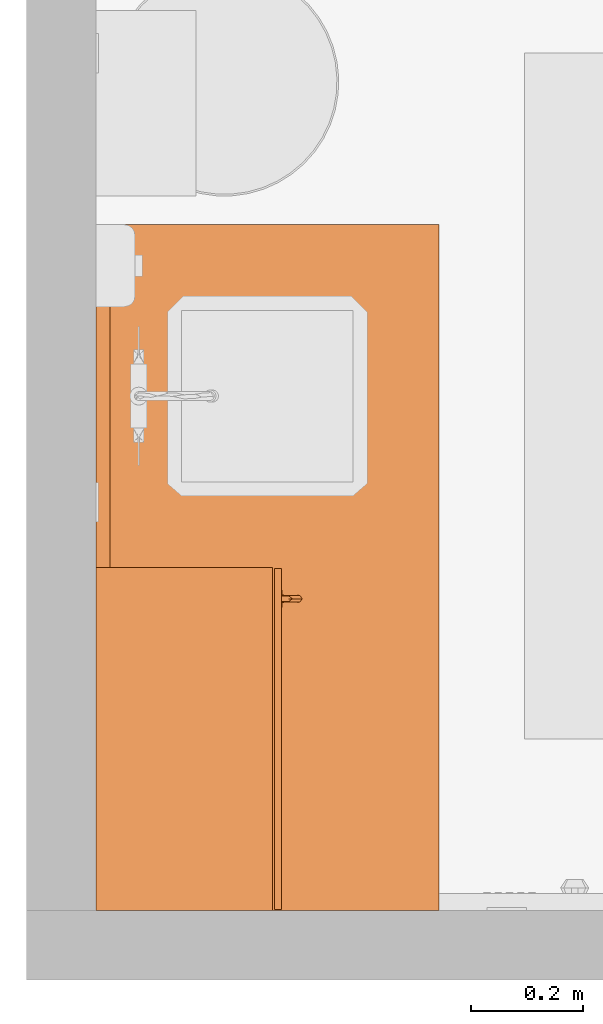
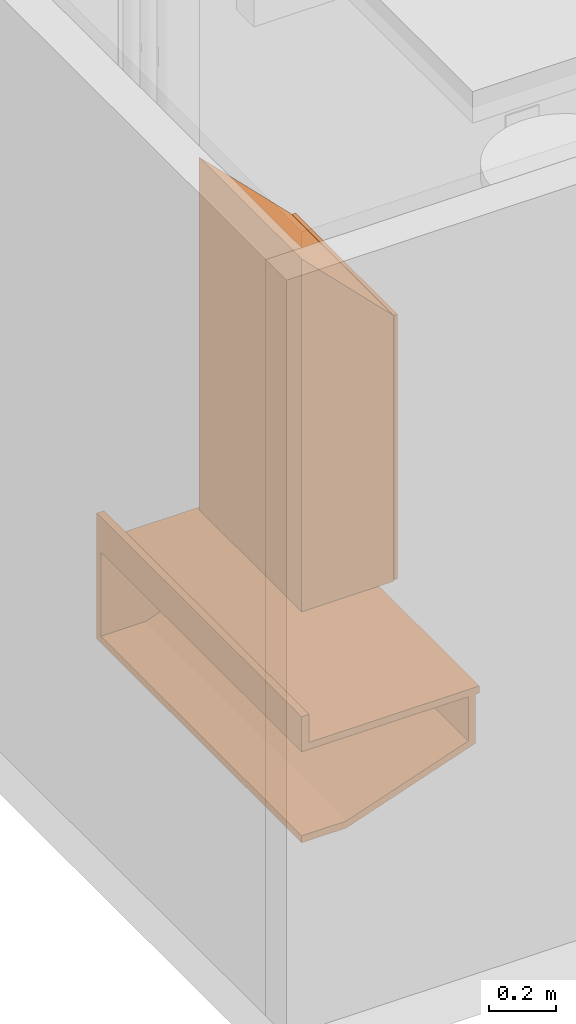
# One storey, part 7 of 10: 2 proxies.
"""IFC2X3 building model written with IfcOpenShell, lengths in feet."""

import ifcopenshell
import ifcopenshell.guid

model = None  # the IFC model being written
_history = None  # IfcOwnerHistory: only IFC2X3 demands one
_inside = {}  # id of a spatial element -> (the spatial element, [elements in it])
_under = {}  # id of a project, library or spatial element -> (it, [spatial elements below it])
_declared = {}  # id of a project -> (the project, [libraries it declares])
_typed = {}  # id of a type object -> (the type object, [elements of that type])
_made_of = {}  # id of a material, layer set ... -> (it, [elements and type objects made of it])


def new_model(schema):
    """Start an empty IFC model of exactly this schema.

    Asked for "IFC4X3", IfcOpenShell would pick the latest addendum, in which some entities
    have other attributes; the version numbers below select the first issue.
    IFC2X3 requires an IfcOwnerHistory on every rooted entity: one is made here for all.
    """
    global model, _history
    if schema == "IFC4X3":
        model = ifcopenshell.file(schema_version=(4, 3, 0, 0))
    else:
        model = ifcopenshell.file(schema=schema)
    _inside.clear()
    _under.clear()
    _declared.clear()
    _typed.clear()
    _made_of.clear()
    _history = None
    if model.schema == "IFC2X3":
        org = make("IfcOrganization", Name="unknown")
        user = make(
            "IfcPersonAndOrganization",
            ThePerson=make("IfcPerson", FamilyName="unknown"),
            TheOrganization=org,
        )
        app = make(
            "IfcApplication",
            ApplicationDeveloper=org,
            Version="unknown",
            ApplicationFullName="unknown",
            ApplicationIdentifier="unknown",
        )
        _history = make(
            "IfcOwnerHistory",
            OwningUser=user,
            OwningApplication=app,
            ChangeAction="ADDED",
            CreationDate=0,
        )
    return model


def make(cls, **values):
    """One entity of the class cls with the attributes given. An attribute that is None is left unset."""
    return model.create_entity(
        cls, **{name: value for name, value in values.items() if value is not None}
    )


def entity(cls, *values):
    """Any entity or typed value of the class cls, its attributes in the order of the schema. None: left unset."""
    e = model.create_entity(cls)
    for i, value in enumerate(values):
        if value is not None:
            e[i] = value
    return e


def rooted(cls, **values):
    """An entity with a GlobalId (a new one), such as an element, a storey or a relation."""
    return make(cls, GlobalId=ifcopenshell.guid.new(), OwnerHistory=_history, **values)


def si_unit(unit_type, name, prefix=None):
    """IfcSIUnit, for example si_unit("LENGTHUNIT", "METRE", prefix="MILLI")."""
    return make("IfcSIUnit", UnitType=unit_type, Prefix=prefix, Name=name)


def converted_unit(unit_type, name, factor, base, dimensions=None, offset=None):
    """IfcConversionBasedUnit, such as the inch: factor (a typed value) times the base unit."""
    return make(
        "IfcConversionBasedUnit"
        if offset is None
        else "IfcConversionBasedUnitWithOffset",
        ConversionOffset=offset,
        Dimensions=None
        if dimensions is None
        else entity("IfcDimensionalExponents", *dimensions),
        UnitType=unit_type,
        Name=name,
        ConversionFactor=make(
            "IfcMeasureWithUnit", ValueComponent=factor, UnitComponent=base
        ),
    )


def derived_unit(unit_type, elements):
    """IfcDerivedUnit: a product of units, each with its exponent."""
    return make(
        "IfcDerivedUnit",
        Elements=[
            make("IfcDerivedUnitElement", Unit=unit, Exponent=power)
            for unit, power in elements
        ],
        UnitType=unit_type,
    )


def assignment(units):
    """IfcUnitAssignment: the units of a project."""
    return None if units is None else make("IfcUnitAssignment", Units=units)


def point(xyz):
    """IfcCartesianPoint."""
    return None if xyz is None else make("IfcCartesianPoint", Coordinates=xyz)


def direction(xyz):
    """IfcDirection."""
    return None if xyz is None else make("IfcDirection", DirectionRatios=xyz)


def frame(location, z_axis=None, x_axis=None):
    """IfcAxis2Placement3D, a coordinate frame: its origin and axes. An axis left out is left unset."""
    return make(
        "IfcAxis2Placement3D",
        Location=point(location),
        Axis=direction(z_axis),
        RefDirection=direction(x_axis),
    )


def origin():
    """The frame at (0, 0, 0) with its axes left unset."""
    return frame((0.0, 0.0, 0.0))


def place(relative_to, where):
    """IfcLocalPlacement: puts the frame where relative to a parent placement (None: the world)."""
    return make(
        "IfcLocalPlacement", PlacementRelTo=relative_to, RelativePlacement=where
    )


def context(
    kind, dimensions, precision=None, world=None, true_north=None, identifier=None
):
    """IfcGeometricRepresentationContext, for example the 3D "Model" context."""
    return make(
        "IfcGeometricRepresentationContext",
        ContextIdentifier=identifier,
        ContextType=kind,
        CoordinateSpaceDimension=dimensions,
        Precision=precision,
        WorldCoordinateSystem=world,
        TrueNorth=true_north,
    )


def subcontext(parent, identifier, kind, view, scale=None):
    """IfcGeometricRepresentationSubContext, for example "Body" below "Model"."""
    return make(
        "IfcGeometricRepresentationSubContext",
        ContextIdentifier=identifier,
        ContextType=kind,
        ParentContext=parent,
        TargetScale=scale,
        TargetView=view,
    )


def project(units=None, contexts=None):
    """IfcProject with its units and contexts."""
    return rooted(
        "IfcProject",
        Name="project",
        RepresentationContexts=contexts,
        UnitsInContext=assignment(units),
    )


def spatial(cls, under=None, at=None, **own):
    """A site, building, storey or space (cls), placed at a placement, below another one or the project."""
    s = rooted(cls, ObjectPlacement=at, **own)
    if under is not None:
        _under.setdefault(under.id(), (under, []))[1].append(s)
    return s


def faces_of(points, faces, orient=None, outer=None):
    """IfcFace entities. A face is a list of loops; a loop is a list of indices into points, from 0.

    orient and outer hold one flag for each loop. By default every Orientation is true, the
    first loop of a face is its IfcFaceOuterBound and the others are IfcFaceBound.
    """
    made = []
    for i, loops in enumerate(faces):
        bounds = []
        for j, loop in enumerate(loops):
            is_outer = j == 0 if outer is None else outer[i][j]
            bounds.append(
                make(
                    "IfcFaceOuterBound" if is_outer else "IfcFaceBound",
                    Bound=make("IfcPolyLoop", Polygon=[points[k] for k in loop]),
                    Orientation=True if orient is None else orient[i][j],
                )
            )
        made.append(make("IfcFace", Bounds=bounds))
    return made


def faceted_brep(points, faces, orient=None, outer=None, voids=None):
    """IfcFacetedBrep: a solid bounded by flat faces; with voids (closed shells), ...WithVoids."""
    shared = [point(p) for p in points]
    hull = make("IfcClosedShell", CfsFaces=faces_of(shared, faces, orient, outer))
    if voids is None:
        return make("IfcFacetedBrep", Outer=hull)
    return make(
        "IfcFacetedBrepWithVoids",
        Outer=hull,
        Voids=[
            make(cls, CfsFaces=faces_of(shared, fs, o, b)) for cls, fs, o, b in voids
        ],
    )


def shape(context_of_items, identifier, shape_type, items):
    """IfcShapeRepresentation: the items that make up one representation, for example the "Body"."""
    return make(
        "IfcShapeRepresentation",
        ContextOfItems=context_of_items,
        RepresentationIdentifier=identifier,
        RepresentationType=shape_type,
        Items=items,
    )


def source(mapping_origin, context_of_items, identifier, shape_type, items):
    """IfcRepresentationMap: a shape defined once, which mapped items show again and again."""
    return make(
        "IfcRepresentationMap",
        MappingOrigin=mapping_origin,
        MappedRepresentation=shape(context_of_items, identifier, shape_type, items),
    )


def transform(
    local_origin,
    x_axis=None,
    y_axis=None,
    z_axis=None,
    scale=None,
    scale2=None,
    scale3=None,
    uniform=True,
):
    """IfcCartesianTransformationOperator3D, or its non-uniform kind. x_axis, y_axis, z_axis: its Axis1, 2, 3."""
    if uniform:
        return make(
            "IfcCartesianTransformationOperator3D",
            Axis1=direction(x_axis),
            Axis2=direction(y_axis),
            LocalOrigin=point(local_origin),
            Scale=scale,
            Axis3=direction(z_axis),
        )
    return make(
        "IfcCartesianTransformationOperator3DnonUniform",
        Axis1=direction(x_axis),
        Axis2=direction(y_axis),
        LocalOrigin=point(local_origin),
        Scale=scale,
        Axis3=direction(z_axis),
        Scale2=scale2,
        Scale3=scale3,
    )


def mapped(mapping_source, mapping_target):
    """IfcMappedItem: shows the shape of a source again, moved by a transform."""
    return make(
        "IfcMappedItem", MappingSource=mapping_source, MappingTarget=mapping_target
    )


def made_of(thing, what):
    """Note that an element or type object is made of a material, layer set ...; save() writes the relation."""
    if what is not None:
        _made_of.setdefault(what.id(), (what, []))[1].append(thing)
    return thing


def type_object(cls, material=None, **own):
    """A type object (cls), such as IfcWallType, which elements share."""
    return made_of(rooted(cls, **own), material)


def type_shapes(of_type, sources):
    """Give a type object the sources (RepresentationMaps) that its elements show as mapped items."""
    of_type.RepresentationMaps = sources


def element(
    cls,
    number,
    at=None,
    inside=None,
    cuts=None,
    type_object=None,
    material=None,
    context=None,
    identifier="Body",
    shape_type=None,
    held_by="IfcProductDefinitionShape",
    body=None,
    shapes=None,
    **own,
):
    """One element of the class cls, such as IfcWall. Its Tag is "e" and its number.

    at: its placement. inside: the storey or other place that contains it. cuts: it is an
    opening in that element (IfcRelVoidsElement). A single representation is given by context,
    identifier, shape_type and body (its items); several are given by shapes. held_by: the class
    of the entity that holds the representations. save() writes the other relations.
    """
    e = rooted(cls, Tag="e%d" % number, ObjectPlacement=at, **own)
    if body is not None:
        shapes = [shape(context, identifier, shape_type, body)]
    if shapes is not None:
        e.Representation = make(held_by, Representations=shapes)
    if inside is not None:
        _inside.setdefault(inside.id(), (inside, []))[1].append(e)
    if cuts is not None:
        rooted(
            "IfcRelVoidsElement", RelatingBuildingElement=cuts, RelatedOpeningElement=e
        )
    if type_object is not None:
        _typed.setdefault(type_object.id(), (type_object, []))[1].append(e)
    return made_of(e, material)


def aggregate(whole, parts):
    """IfcRelAggregates: a whole, such as a stair, and the parts it consists of."""
    return rooted("IfcRelAggregates", RelatingObject=whole, RelatedObjects=parts)


def save(model, path):
    """Write the relations noted so far, then the file.

    IfcRelAggregates (storeys below a building ...), IfcRelContainedInSpatialStructure (elements
    in a storey), IfcRelDefinesByType, IfcRelAssociatesMaterial and IfcRelDeclares: one each for
    every whole, place, type object, material and project.
    """
    for whole, parts in _under.values():
        aggregate(whole, parts)
    for where, things in _inside.values():
        rooted(
            "IfcRelContainedInSpatialStructure",
            RelatedElements=things,
            RelatingStructure=where,
        )
    for kind, things in _typed.values():
        rooted("IfcRelDefinesByType", RelatedObjects=things, RelatingType=kind)
    for what, things in _made_of.values():
        rooted("IfcRelAssociatesMaterial", RelatedObjects=things, RelatingMaterial=what)
    for by, libraries in _declared.values():
        rooted("IfcRelDeclares", RelatingContext=by, RelatedDefinitions=libraries)
    model.write(path)


model = new_model("IFC2X3")

# Units and contexts
model_context = context("Model", 3, precision=0.0001, world=origin(), true_north=direction((6.12303176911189e-17, 1.0)))
body_context = subcontext(model_context, "Body", "Model", "MODEL_VIEW")
ifc_project = project(units=[converted_unit("LENGTHUNIT", "FOOT", entity("IfcRatioMeasure", 0.3048), si_unit("LENGTHUNIT", "METRE"), dimensions=[1, 0, 0, 0, 0, 0, 0]), converted_unit("AREAUNIT", "SQUARE FOOT", entity("IfcRatioMeasure", 0.09290304), si_unit("AREAUNIT", "SQUARE_METRE"), dimensions=[2, 0, 0, 0, 0, 0, 0]), converted_unit("VOLUMEUNIT", "CUBIC FOOT", entity("IfcRatioMeasure", 0.028316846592), si_unit("VOLUMEUNIT", "CUBIC_METRE"), dimensions=[3, 0, 0, 0, 0, 0, 0]), converted_unit("PLANEANGLEUNIT", "DEGREE", entity("IfcRatioMeasure", 0.0174532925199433), si_unit("PLANEANGLEUNIT", "RADIAN"), dimensions=[0, 0, 0, 0, 0, 0, 0]), si_unit("MASSUNIT", "GRAM", prefix="KILO"), derived_unit("MASSDENSITYUNIT", [(si_unit("MASSUNIT", "GRAM", prefix="KILO"), 1), (si_unit("LENGTHUNIT", "METRE"), -3)]), si_unit("TIMEUNIT", "SECOND"), si_unit("FREQUENCYUNIT", "HERTZ"), si_unit("THERMODYNAMICTEMPERATUREUNIT", "DEGREE_CELSIUS"), derived_unit("THERMALTRANSMITTANCEUNIT", [(si_unit("MASSUNIT", "GRAM", prefix="KILO"), 1), (si_unit("THERMODYNAMICTEMPERATUREUNIT", "KELVIN"), -1), (si_unit("TIMEUNIT", "SECOND"), -3)]), derived_unit("VOLUMETRICFLOWRATEUNIT", [(si_unit("LENGTHUNIT", "METRE"), 3), (si_unit("TIMEUNIT", "SECOND"), -1)]), si_unit("ELECTRICCURRENTUNIT", "AMPERE"), si_unit("ELECTRICVOLTAGEUNIT", "VOLT"), si_unit("POWERUNIT", "WATT"), si_unit("FORCEUNIT", "NEWTON"), si_unit("ILLUMINANCEUNIT", "LUX"), si_unit("LUMINOUSFLUXUNIT", "LUMEN"), si_unit("LUMINOUSINTENSITYUNIT", "CANDELA"), derived_unit("USERDEFINED", [(si_unit("MASSUNIT", "GRAM", prefix="KILO"), -1), (si_unit("LENGTHUNIT", "METRE"), -2), (si_unit("TIMEUNIT", "SECOND"), 3), (si_unit("LUMINOUSFLUXUNIT", "LUMEN"), 1)]), derived_unit("LINEARVELOCITYUNIT", [(si_unit("LENGTHUNIT", "METRE"), 1), (si_unit("TIMEUNIT", "SECOND"), -1)]), si_unit("PRESSUREUNIT", "PASCAL"), derived_unit("USERDEFINED", [(si_unit("LENGTHUNIT", "METRE"), -2), (si_unit("MASSUNIT", "GRAM", prefix="KILO"), 1), (si_unit("TIMEUNIT", "SECOND"), -2)])], contexts=[model_context])

# Site, building, storey, space
site_placement = place(None, origin())
site = spatial("IfcSite", under=ifc_project, at=site_placement, Name="Default", CompositionType="ELEMENT")
building_placement = place(site_placement, origin())
building = spatial("IfcBuilding", under=site, at=building_placement, Name="OUTPATIENT / PACT CLINIC (Ch. 265)", CompositionType="ELEMENT")
storey_placement = place(building_placement, origin())
storey = spatial("IfcBuildingStorey", under=building, at=storey_placement, Name="DATUM", CompositionType="ELEMENT", Elevation=0.0)
space_placement = place(storey_placement, origin())
space = spatial("IfcSpace", under=storey, at=space_placement, Name="WRTM3", CompositionType="ELEMENT", InteriorOrExteriorSpace="INTERNAL")

# Proxies
building_element_proxy_type_1 = type_object("IfcBuildingElementProxyType", Name="CT020 - Countertop, Solid Surface", PredefinedType="NOTDEFINED")
shared_shape_1 = source(origin(), body_context, "Body", "Brep", [
    faceted_brep([(-2.0, -0.874999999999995, 0.0), (-2.0, -0.874999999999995, -0.528571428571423), (-2.0, 0.500000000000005, -1.0), (-2.0, 1.0, -1.0), (-2.0, 1.0, -1.08333333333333), (-2.0, 0.500000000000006, -1.08333333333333), (-2.0, -0.958333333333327, -0.583333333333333), (-2.0, -0.958333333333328, 0.0), (1.91666666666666, -0.875000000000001, 0.0), (1.91666666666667, -0.875000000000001, -0.528571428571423), (2.0, -0.958333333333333, 0.0), (2.0, -0.958333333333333, -0.583333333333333), (2.0, 1.0, 0.0), (1.91666666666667, 1.0, 0.0), (1.91666666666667, 1.0, -1.0), (1.91666666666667, 0.499999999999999, -1.0), (2.0, 0.499999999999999, -1.08333333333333), (2.0, 1.0, -1.08333333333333)], [[[0, 1, 2, 3, 4, 5, 6, 7]], [[1, 0, 8, 9]], [[10, 7, 6, 11]], [[0, 7, 10, 12, 13, 8]], [[13, 14, 15, 9, 8]], [[12, 10, 11, 16, 17]], [[14, 13, 12, 17, 4, 3]], [[2, 1, 9, 15]], [[6, 5, 16, 11]], [[17, 16, 5, 4]], [[3, 2, 15, 14]]]),
    faceted_brep([(-2.0, 0.91666666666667, 0.416666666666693), (-2.0, 1.0, 0.416666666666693), (-2.0, 1.0, 0.0833333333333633), (-2.0, 0.91666666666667, 0.0833333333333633), (2.0, 0.916666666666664, 0.416666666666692), (2.0, 0.916666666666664, 0.0833333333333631), (2.0, 1.0, 0.0833333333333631), (2.0, 1.0, 0.416666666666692)], [[[0, 1, 2, 3]], [[4, 5, 6, 7]], [[1, 0, 4, 7]], [[2, 1, 7, 6]], [[3, 2, 6, 5]], [[0, 3, 5, 4]]]),
    faceted_brep([(2.0, 1.0, 0.0833333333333), (-2.0, 1.0, 0.0833333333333), (-2.0, -1.0, 0.0833333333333), (2.0, -1.0, 0.0833333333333), (2.0, 1.0, 0.0), (2.0, -1.0, 0.0), (-2.0, -1.0, 0.0), (-2.0, 1.0, 0.0)], [[[0, 1, 2, 3]], [[4, 5, 6, 7]], [[1, 0, 4, 7]], [[2, 1, 7, 6]], [[3, 2, 6, 5]], [[0, 3, 5, 4]]]),
    faceted_brep([(-2.0, 1.0, 0.0833333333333), (-2.0, 0.0, 0.0833333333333), (-2.0, -1.0, 0.0833333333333), (2.0, -1.0, 0.0833333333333), (2.0, 1.0, 0.0833333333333), (-2.0, 1.0, 0.0), (2.0, 1.0, 0.0), (2.0, -1.0, 0.0), (-2.0, -1.0, 0.0), (-2.0, 0.0, 0.0)], [[[0, 1, 2, 3, 4]], [[5, 6, 7, 8, 9]], [[1, 0, 5, 9]], [[2, 1, 9, 8]], [[3, 2, 8, 7]], [[4, 3, 7, 6]], [[0, 4, 6, 5]]]),
])
type_shapes(building_element_proxy_type_1, [shared_shape_1])
proxy_1_placement = place(space_placement, frame((237.266410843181, -857.855546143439, 3.0), z_axis=(0.0, 0.0, 1.0), x_axis=(0.0, 1.0, 0.0)))
element("IfcBuildingElementProxy", 1, at=proxy_1_placement, inside=space, type_object=building_element_proxy_type_1, Name="CT020 - Countertop, Solid Surface:CT020 - Countertop, Solid Surface", ObjectType="CT020 - Countertop, Solid Surface", context=body_context, shape_type="MappedRepresentation", body=[
    mapped(shared_shape_1, transform((0.0, 0.0, 0.0), scale=1.0)),
])
building_element_proxy_type_2 = type_object("IfcBuildingElementProxyType", Name="24\"H x 10 1/2\"D x 24\"W Key Alike", PredefinedType="NOTDEFINED")
shared_shape_2 = source(origin(), body_context, "Body", "Brep", [
    faceted_brep([(0.19651385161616, 1.08333333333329, 0.313846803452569), (0.190252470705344, 1.08333333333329, 0.319239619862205), (0.18229166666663, 1.08333333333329, 0.321375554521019), (0.174330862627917, 1.08333333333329, 0.319239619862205), (0.1680694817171, 1.08333333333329, 0.313846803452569), (0.163902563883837, 1.08333333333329, 0.306680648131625), (0.161774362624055, 1.08333333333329, 0.298665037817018), (0.161657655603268, 1.08333333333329, 0.290376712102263), (0.163634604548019, 1.08333333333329, 0.28232853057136), (0.167847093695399, 1.08333333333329, 0.275193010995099), (0.17427568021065, 1.08333333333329, 0.270002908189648), (0.18229166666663, 1.08333333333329, 0.268039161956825), (0.19030765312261, 1.08333333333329, 0.270002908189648), (0.196736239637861, 1.08333333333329, 0.275193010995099), (0.200948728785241, 1.08333333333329, 0.282328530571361), (0.202925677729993, 1.08333333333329, 0.290376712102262), (0.202808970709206, 1.08333333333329, 0.298665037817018), (0.200680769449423, 1.08333333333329, 0.306680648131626), (0.196736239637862, 1.0833333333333, 0.724181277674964), (0.19030765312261, 1.08333333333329, 0.729371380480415), (0.182291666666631, 1.08333333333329, 0.731335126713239), (0.174275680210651, 1.08333333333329, 0.729371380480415), (0.167847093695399, 1.0833333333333, 0.724181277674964), (0.163634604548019, 1.0833333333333, 0.717045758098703), (0.161657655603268, 1.0833333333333, 0.708997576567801), (0.161774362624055, 1.0833333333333, 0.700709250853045), (0.163902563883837, 1.0833333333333, 0.692693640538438), (0.1680694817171, 1.0833333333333, 0.685527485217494), (0.174330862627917, 1.0833333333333, 0.680134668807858), (0.18229166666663, 1.0833333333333, 0.677998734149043), (0.190252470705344, 1.0833333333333, 0.680134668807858), (0.19651385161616, 1.0833333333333, 0.685527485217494), (0.200680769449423, 1.0833333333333, 0.692693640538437), (0.202808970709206, 1.0833333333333, 0.700709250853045), (0.202925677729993, 1.0833333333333, 0.708997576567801), (0.200948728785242, 1.0833333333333, 0.717045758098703), (0.165811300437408, 1.12409268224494, 0.31475680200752), (0.18229166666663, 1.14780337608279, 0.330888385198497), (0.161458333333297, 1.18064118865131, 0.466347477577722), (0.18229166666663, 1.19644572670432, 0.455241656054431), (0.164363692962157, 1.17612945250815, 0.404181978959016), (0.163430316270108, 1.19112262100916, 0.516028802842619), (0.163731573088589, 1.17115358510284, 0.532604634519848), (0.164781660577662, 1.15227782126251, 0.595990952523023), (0.163692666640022, 1.18246164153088, 0.571621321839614), (0.162170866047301, 1.14398369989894, 0.647040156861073), (0.162170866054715, 1.14398369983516, 0.352334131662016), (0.18229166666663, 1.18929021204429, 0.410796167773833), (0.166255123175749, 1.12394533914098, 0.643237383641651), (0.166351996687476, 1.12260037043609, 0.354447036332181), (0.164054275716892, 1.15353637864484, 0.403240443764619), (0.18229166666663, 1.20360124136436, 0.499687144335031), (0.18229166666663, 1.12585787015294, 0.372692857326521), (0.18229166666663, 1.15274042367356, 0.565696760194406), (0.18229166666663, 1.15274042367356, 0.433677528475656), (0.18229166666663, 1.16193457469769, 0.499687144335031), (0.169179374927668, 1.16439089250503, 0.466939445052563), (0.18229166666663, 1.18929021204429, 0.588578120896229), (0.165811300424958, 1.1240926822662, 0.684617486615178), (0.182291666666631, 1.14780337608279, 0.668485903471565), (0.18229166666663, 1.12585787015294, 0.626681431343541), (0.198772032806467, 1.12409268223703, 0.314756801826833), (0.202412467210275, 1.14398369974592, 0.352334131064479), (0.200219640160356, 1.1761294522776, 0.404181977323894), (0.200529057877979, 1.15353637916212, 0.403240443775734), (0.198231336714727, 1.1226003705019, 0.354447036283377), (0.201153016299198, 1.19112262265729, 0.516028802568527), (0.200890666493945, 1.18246164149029, 0.571621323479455), (0.203124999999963, 1.18064118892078, 0.46634747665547), (0.199801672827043, 1.15227782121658, 0.595990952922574), (0.20085176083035, 1.17115358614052, 0.532604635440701), (0.198328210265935, 1.12394533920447, 0.643237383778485), (0.202412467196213, 1.14398369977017, 0.647040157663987), (0.198772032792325, 1.12409268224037, 0.684617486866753)], [[[0, 1, 2, 3, 4, 5, 6, 7, 8, 9, 10, 11, 12, 13, 14, 15, 16, 17]], [[18, 19, 20, 21, 22, 23, 24, 25, 26, 27, 28, 29, 30, 31, 32, 33, 34, 35]], [[10, 36, 37]], [[11, 10, 37]], [[38, 39, 40]], [[38, 41, 39]], [[36, 8, 7]], [[42, 43, 44]], [[43, 45, 44]], [[36, 6, 46]], [[47, 37, 40]], [[36, 10, 9]], [[39, 47, 40]], [[45, 43, 48]], [[36, 46, 37]], [[36, 7, 6]], [[27, 26, 48]], [[5, 4, 49]], [[46, 5, 49]], [[40, 50, 38]], [[39, 41, 51]], [[50, 49, 52]], [[41, 38, 42]], [[49, 3, 2]], [[42, 53, 43]], [[6, 5, 46]], [[54, 55, 56]], [[52, 54, 50]], [[44, 57, 51]], [[41, 44, 51]], [[53, 42, 55]], [[38, 56, 42]], [[46, 40, 37]], [[23, 58, 24]], [[46, 49, 50]], [[21, 58, 22]], [[57, 44, 45]], [[23, 22, 58]], [[3, 49, 4]], [[21, 20, 59]], [[54, 56, 50]], [[25, 24, 58]], [[43, 60, 48]], [[43, 53, 60]], [[46, 50, 40]], [[29, 48, 60]], [[49, 2, 52]], [[58, 59, 45]], [[44, 41, 42]], [[45, 26, 25]], [[21, 59, 58]], [[28, 27, 48]], [[8, 36, 9]], [[59, 57, 45]], [[58, 45, 25]], [[38, 50, 56]], [[28, 48, 29]], [[55, 42, 56]], [[26, 45, 48]], [[12, 37, 61]], [[62, 63, 64]], [[1, 0, 65]], [[62, 17, 16]], [[2, 65, 52]], [[66, 51, 67]], [[65, 2, 1]], [[63, 62, 37]], [[64, 68, 54]], [[54, 52, 64]], [[39, 63, 47]], [[64, 65, 62]], [[61, 13, 12]], [[66, 68, 39]], [[12, 11, 37]], [[13, 61, 14]], [[61, 15, 14]], [[68, 55, 54]], [[69, 60, 53]], [[61, 62, 16]], [[69, 70, 67]], [[61, 16, 15]], [[57, 67, 51]], [[64, 63, 68]], [[53, 55, 70]], [[61, 37, 62]], [[63, 39, 68]], [[53, 70, 69]], [[67, 70, 66]], [[29, 71, 30]], [[0, 17, 65]], [[32, 71, 72]], [[72, 71, 69]], [[73, 72, 59]], [[32, 31, 71]], [[69, 67, 72]], [[33, 32, 72]], [[35, 34, 73]], [[70, 68, 66]], [[35, 73, 18]], [[57, 59, 72]], [[73, 33, 72]], [[33, 73, 34]], [[19, 73, 59]], [[47, 63, 37]], [[19, 59, 20]], [[60, 71, 29]], [[30, 71, 31]], [[19, 18, 73]], [[57, 72, 67]], [[60, 69, 71]], [[52, 65, 64]], [[68, 70, 55]], [[17, 62, 65]], [[51, 66, 39]]]),
    faceted_brep([(0.162168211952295, 1.08854166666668, 0.161274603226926), (0.161458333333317, 1.08854166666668, 0.166666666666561), (0.162168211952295, 1.08854166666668, 0.172058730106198), (0.164249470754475, 1.08854166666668, 0.177083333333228), (0.167560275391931, 1.08854166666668, 0.181398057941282), (0.171874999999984, 1.08854166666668, 0.184708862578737), (0.176899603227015, 1.08854166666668, 0.186790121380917), (0.182291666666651, 1.08854166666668, 0.187499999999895), (0.187683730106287, 1.08854166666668, 0.186790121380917), (0.192708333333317, 1.08854166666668, 0.184708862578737), (0.19702305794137, 1.08854166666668, 0.181398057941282), (0.200333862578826, 1.08854166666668, 0.177083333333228), (0.202415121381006, 1.08854166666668, 0.172058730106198), (0.203124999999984, 1.08854166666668, 0.166666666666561), (0.202415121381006, 1.08854166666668, 0.161274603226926), (0.200333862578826, 1.08854166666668, 0.156249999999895), (0.197023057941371, 1.08854166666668, 0.151935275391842), (0.192708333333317, 1.08854166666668, 0.148624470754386), (0.187683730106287, 1.08854166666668, 0.146543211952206), (0.182291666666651, 1.08854166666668, 0.145833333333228), (0.176899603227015, 1.08854166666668, 0.146543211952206), (0.171874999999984, 1.08854166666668, 0.148624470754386), (0.167560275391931, 1.08854166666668, 0.151935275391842), (0.164249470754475, 1.08854166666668, 0.156249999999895), (0.202415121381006, 1.08593750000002, 0.161274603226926), (0.203124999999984, 1.08593750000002, 0.166666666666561), (0.202415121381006, 1.08593750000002, 0.172058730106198), (0.200333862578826, 1.08593750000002, 0.177083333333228), (0.19702305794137, 1.08593750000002, 0.181398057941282), (0.192708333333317, 1.08593750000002, 0.184708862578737), (0.187683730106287, 1.08593750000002, 0.186790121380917), (0.182291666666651, 1.08593750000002, 0.187499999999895), (0.176899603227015, 1.08593750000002, 0.186790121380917), (0.171874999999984, 1.08593750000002, 0.184708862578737), (0.167560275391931, 1.08593750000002, 0.181398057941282), (0.164249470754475, 1.08593750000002, 0.177083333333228), (0.162168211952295, 1.08593750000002, 0.172058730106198), (0.161458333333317, 1.08593750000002, 0.166666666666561), (0.162168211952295, 1.08593750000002, 0.161274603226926), (0.164249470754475, 1.08593750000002, 0.156249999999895), (0.167560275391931, 1.08593750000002, 0.151935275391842), (0.171874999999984, 1.08593750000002, 0.148624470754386), (0.176899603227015, 1.08593750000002, 0.146543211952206), (0.182291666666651, 1.08593750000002, 0.145833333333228), (0.187683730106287, 1.08593750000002, 0.146543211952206), (0.192708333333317, 1.08593750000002, 0.148624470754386), (0.197023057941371, 1.08593750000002, 0.151935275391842), (0.200333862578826, 1.08593750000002, 0.156249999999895)], [[[0, 1, 2, 3, 4, 5, 6, 7, 8, 9, 10, 11, 12, 13, 14, 15, 16, 17, 18, 19, 20, 21, 22, 23]], [[24, 25, 26, 27, 28, 29, 30, 31, 32, 33, 34, 35, 36, 37, 38, 39, 40, 41, 42, 43, 44, 45, 46, 47]], [[31, 7, 6, 32]], [[32, 6, 5, 33]], [[35, 34, 4, 3]], [[4, 34, 33, 5]], [[36, 35, 3, 2]], [[36, 2, 1, 37]], [[37, 1, 0, 38]], [[38, 0, 23, 39]], [[41, 40, 22, 21]], [[22, 40, 39, 23]], [[42, 41, 21, 20]], [[42, 20, 19, 43]], [[43, 19, 18, 44]], [[44, 18, 17, 45]], [[47, 46, 16, 15]], [[16, 46, 45, 17]], [[24, 47, 15, 14]], [[24, 14, 13, 25]], [[25, 13, 12, 26]], [[26, 12, 11, 27]], [[29, 28, 10, 9]], [[10, 28, 27, 11]], [[30, 29, 9, 8]], [[30, 8, 7, 31]]]),
    faceted_brep([(0.19577182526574, 1.08593750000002, 0.116358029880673), (0.18229166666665, 1.08593750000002, 0.114583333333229), (0.168811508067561, 1.08593750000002, 0.116358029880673), (0.156249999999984, 1.08593750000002, 0.121561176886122), (0.145463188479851, 1.08593750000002, 0.129838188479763), (0.137186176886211, 1.08593750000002, 0.140624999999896), (0.131983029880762, 1.08593750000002, 0.153186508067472), (0.130208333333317, 1.08593750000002, 0.166666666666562), (0.131983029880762, 1.08593750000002, 0.180146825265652), (0.137186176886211, 1.08593750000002, 0.192708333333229), (0.145463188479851, 1.08593750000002, 0.203495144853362), (0.156249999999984, 1.08593750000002, 0.211772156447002), (0.168811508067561, 1.08593750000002, 0.216975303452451), (0.182291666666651, 1.08593750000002, 0.218749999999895), (0.19577182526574, 1.08593750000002, 0.216975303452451), (0.208333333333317, 1.08593750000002, 0.211772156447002), (0.21912014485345, 1.08593750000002, 0.203495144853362), (0.22739715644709, 1.08593750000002, 0.192708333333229), (0.23260030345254, 1.08593750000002, 0.180146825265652), (0.234374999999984, 1.08593750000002, 0.166666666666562), (0.232600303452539, 1.08593750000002, 0.153186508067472), (0.22739715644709, 1.08593750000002, 0.140624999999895), (0.21912014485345, 1.08593750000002, 0.129838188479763), (0.208333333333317, 1.08593750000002, 0.121561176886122), (0.182291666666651, 1.08333333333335, 0.218749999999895), (0.168811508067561, 1.08333333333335, 0.216975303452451), (0.156249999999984, 1.08333333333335, 0.211772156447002), (0.145463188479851, 1.08333333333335, 0.203495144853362), (0.137186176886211, 1.08333333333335, 0.192708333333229), (0.131983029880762, 1.08333333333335, 0.180146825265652), (0.130208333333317, 1.08333333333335, 0.166666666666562), (0.131983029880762, 1.08333333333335, 0.153186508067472), (0.137186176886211, 1.08333333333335, 0.140624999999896), (0.145463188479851, 1.08333333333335, 0.129838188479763), (0.156249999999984, 1.08333333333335, 0.121561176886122), (0.168811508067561, 1.08333333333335, 0.116358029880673), (0.18229166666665, 1.08333333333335, 0.114583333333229), (0.19577182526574, 1.08333333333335, 0.116358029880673), (0.208333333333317, 1.08333333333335, 0.121561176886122), (0.21912014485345, 1.08333333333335, 0.129838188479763), (0.22739715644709, 1.08333333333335, 0.140624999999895), (0.232600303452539, 1.08333333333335, 0.153186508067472), (0.234374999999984, 1.08333333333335, 0.166666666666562), (0.23260030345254, 1.08333333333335, 0.180146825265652), (0.22739715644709, 1.08333333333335, 0.192708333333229), (0.21912014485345, 1.08333333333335, 0.203495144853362), (0.208333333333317, 1.08333333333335, 0.211772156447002), (0.19577182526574, 1.08333333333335, 0.216975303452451)], [[[0, 1, 2, 3, 4, 5, 6, 7, 8, 9, 10, 11, 12, 13, 14, 15, 16, 17, 18, 19, 20, 21, 22, 23]], [[24, 25, 26, 27, 28, 29, 30, 31, 32, 33, 34, 35, 36, 37, 38, 39, 40, 41, 42, 43, 44, 45, 46, 47]], [[30, 7, 6, 31]], [[31, 6, 5, 32]], [[34, 33, 4, 3]], [[4, 33, 32, 5]], [[35, 34, 3, 2]], [[35, 2, 1, 36]], [[36, 1, 0, 37]], [[37, 0, 23, 38]], [[40, 39, 22, 21]], [[22, 39, 38, 23]], [[41, 40, 21, 20]], [[41, 20, 19, 42]], [[42, 19, 18, 43]], [[43, 18, 17, 44]], [[46, 45, 16, 15]], [[16, 45, 44, 17]], [[47, 46, 15, 14]], [[47, 14, 13, 24]], [[24, 13, 12, 25]], [[25, 12, 11, 26]], [[28, 27, 10, 9]], [[10, 27, 26, 11]], [[29, 28, 9, 8]], [[29, 8, 7, 30]]]),
    faceted_brep([(2.0, 1.03125000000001, 0.0), (2.0, 0.0, 0.0), (0.0, 0.0, 0.0), (0.0, 1.03125000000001, 0.0), (0.0, 1.03125000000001, 3.1666666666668), (2.0, 1.03125000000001, 3.16666666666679), (0.0416666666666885, 1.03125000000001, 3.12500000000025), (0.0416666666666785, 1.03125000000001, 0.0416666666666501), (1.95833333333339, 1.03125000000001, 0.0416666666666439), (1.9583333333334, 1.03125000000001, 3.12500000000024), (0.0, 0.0, 4.1979166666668), (2.0, 0.0, 4.19791666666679), (1.9583333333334, 0.0416666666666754, 3.12500000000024), (0.0416666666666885, 0.0416666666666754, 3.12500000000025), (1.95833333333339, 0.0416666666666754, 0.0416666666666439), (0.0416666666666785, 0.0416666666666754, 0.0416666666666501)], [[[0, 1, 2, 3]], [[3, 4, 5, 0], [6, 7, 8, 9]], [[2, 10, 4, 3]], [[1, 11, 10, 2]], [[0, 5, 11, 1]], [[12, 13, 6, 9]], [[14, 8, 7, 15]], [[12, 14, 15, 13]], [[13, 15, 7, 6]], [[9, 8, 14, 12]], [[10, 11, 5, 4]]]),
    faceted_brep([(1.99479166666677, 1.0416666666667, 3.15625000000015), (0.00520833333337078, 1.04166666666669, 3.15625000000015), (0.00520833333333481, 1.04166666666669, 0.0104166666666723), (1.99479166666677, 1.0416666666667, 0.0104166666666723), (1.99479166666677, 1.08333333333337, 3.15625000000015), (1.99479166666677, 1.08333333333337, 0.0104166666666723), (0.00520833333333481, 1.08333333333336, 0.0104166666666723), (0.00520833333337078, 1.08333333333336, 3.15625000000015)], [[[0, 1, 2, 3]], [[4, 5, 6, 7]], [[3, 5, 4, 0]], [[2, 6, 5, 3]], [[1, 7, 6, 2]], [[0, 4, 7, 1]]]),
])
type_shapes(building_element_proxy_type_2, [shared_shape_2])
proxy_2_placement = place(space_placement, frame((236.266410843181, -857.855546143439, 4.66666666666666), z_axis=(0.0, 0.0, 1.0), x_axis=(0.0, -1.0, 0.0)))
element("IfcBuildingElementProxy", 2, at=proxy_2_placement, inside=space, type_object=building_element_proxy_type_2, Name="Z1020 - Cabinet WH-1 DO - Right:24\"H x 10 1/2\"D x 24\"W Key Alike", ObjectType="24\"H x 10 1/2\"D x 24\"W Key Alike", context=body_context, shape_type="MappedRepresentation", body=[
    mapped(shared_shape_2, transform((0.0, 0.0, 0.0), scale=1.0)),
])

save(model, "model.ifc")
